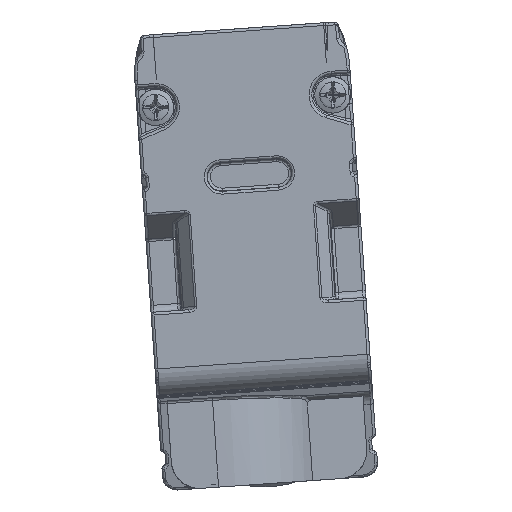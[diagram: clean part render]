
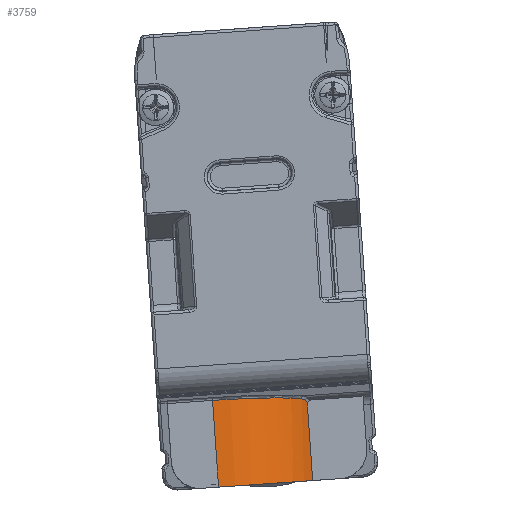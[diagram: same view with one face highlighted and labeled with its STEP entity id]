
A CAD part, front view. The second image highlights one B-rep face of the part: STEP entity #3759.
In plain terms, the highlighted cylindrical face has radius 7.5 mm (diameter 15 mm), a partial arc.
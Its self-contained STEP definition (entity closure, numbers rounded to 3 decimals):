
#638=B_SPLINE_CURVE_WITH_KNOTS('',3,(#38946,#38947,#38948,#38949,#38950,
#38951,#38952),.UNSPECIFIED.,.F.,.F.,(4,3,4),(0.,0.485,1.),.UNSPECIFIED.);
#1113=CYLINDRICAL_SURFACE('',#23474,7.5);
#2093=CIRCLE('',#23473,7.5);
#3759=ADVANCED_FACE('',(#5114),#1113,.T.);
#5114=FACE_OUTER_BOUND('',#6210,.T.);
#6210=EDGE_LOOP('',(#9890,#9891,#9892,#9893,#9894));
#6801=ELLIPSE('',#23472,7.53,7.5);
#9890=ORIENTED_EDGE('',*,*,#17089,.T.);
#9891=ORIENTED_EDGE('',*,*,#17090,.T.);
#9892=ORIENTED_EDGE('',*,*,#17091,.T.);
#9893=ORIENTED_EDGE('',*,*,#17092,.T.);
#9894=ORIENTED_EDGE('',*,*,#17093,.F.);
#14023=VERTEX_POINT('',#38944);
#14024=VERTEX_POINT('',#38945);
#14025=VERTEX_POINT('',#38953);
#14026=VERTEX_POINT('',#38955);
#14027=VERTEX_POINT('',#38957);
#17089=EDGE_CURVE('',#14023,#14024,#19652,.T.);
#17090=EDGE_CURVE('',#14024,#14025,#638,.T.);
#17091=EDGE_CURVE('',#14025,#14026,#6801,.T.);
#17092=EDGE_CURVE('',#14026,#14027,#19653,.T.);
#17093=EDGE_CURVE('',#14023,#14027,#2093,.T.);
#19652=LINE('',#38943,#21296);
#19653=LINE('',#38956,#21297);
#21296=VECTOR('',#28253,1.);
#21297=VECTOR('',#28256,1.);
#23472=AXIS2_PLACEMENT_3D('',#38954,#28254,#28255);
#23473=AXIS2_PLACEMENT_3D('',#38958,#28257,#28258);
#23474=AXIS2_PLACEMENT_3D('',#38959,#28259,#28260);
#28253=DIRECTION('',(-0.07,0.,0.998));
#28254=DIRECTION('',(0.069,-0.089,-0.994));
#28255=DIRECTION('',(0.006,0.996,-0.089));
#28256=DIRECTION('',(0.07,0.,-0.998));
#28257=DIRECTION('',(0.07,0.,-0.998));
#28258=DIRECTION('',(0.998,0.,0.07));
#28259=DIRECTION('',(0.07,0.,-0.998));
#28260=DIRECTION('',(0.,-1.,0.));
#38943=CARTESIAN_POINT('',(-40.701,-620.597,14.888));
#38944=CARTESIAN_POINT('',(-40.701,-620.597,14.888));
#38945=CARTESIAN_POINT('',(-41.088,-620.597,20.435));
#38946=CARTESIAN_POINT('',(-41.088,-620.597,20.435));
#38947=CARTESIAN_POINT('',(-41.139,-620.686,20.528));
#38948=CARTESIAN_POINT('',(-41.198,-620.793,20.603));
#38949=CARTESIAN_POINT('',(-41.263,-620.905,20.654));
#38950=CARTESIAN_POINT('',(-41.332,-621.024,20.708));
#38951=CARTESIAN_POINT('',(-41.408,-621.152,20.738));
#38952=CARTESIAN_POINT('',(-41.487,-621.278,20.743));
#38953=CARTESIAN_POINT('',(-41.487,-621.278,20.743));
#38954=CARTESIAN_POINT('',(-47.816,-617.318,19.944));
#38955=CARTESIAN_POINT('',(-47.863,-624.818,20.616));
#38956=CARTESIAN_POINT('',(-47.667,-624.818,17.815));
#38957=CARTESIAN_POINT('',(-47.43,-624.818,14.418));
#38958=CARTESIAN_POINT('',(-47.43,-617.318,14.418));
#38959=CARTESIAN_POINT('',(-52.434,-617.318,85.982));
